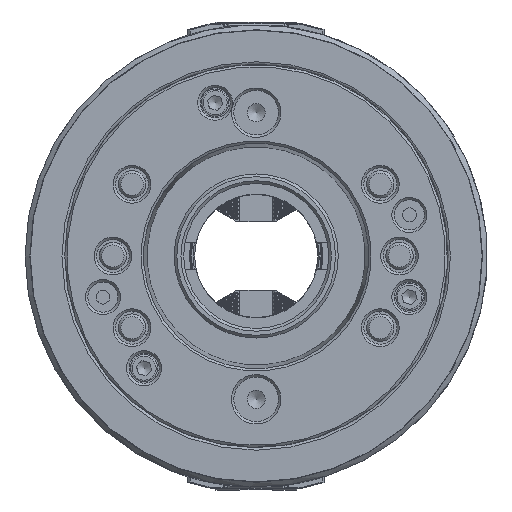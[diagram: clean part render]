
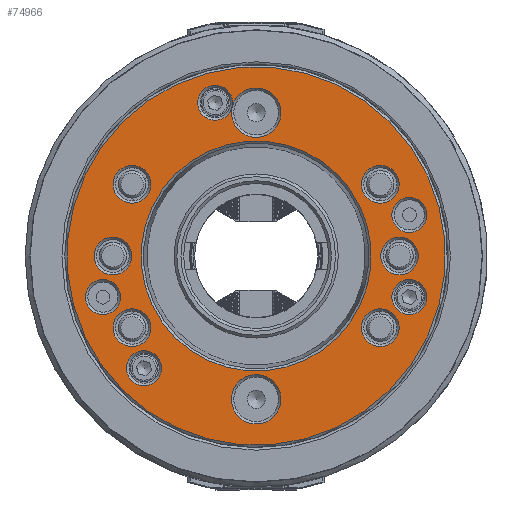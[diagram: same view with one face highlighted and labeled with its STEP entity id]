
A CAD part, front view. The second image highlights one B-rep face of the part: STEP entity #74966.
In plain terms, the highlighted planar face has unit normal (0, -1, 0).
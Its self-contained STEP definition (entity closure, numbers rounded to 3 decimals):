
#21244=PLANE('',#80234);
#21662=FACE_BOUND('',#29375,.T.);
#21663=FACE_BOUND('',#29376,.T.);
#21664=FACE_BOUND('',#29377,.T.);
#21665=FACE_BOUND('',#29378,.T.);
#21666=FACE_BOUND('',#29379,.T.);
#21667=FACE_BOUND('',#29380,.T.);
#21668=FACE_BOUND('',#29381,.T.);
#21669=FACE_BOUND('',#29382,.T.);
#21670=FACE_BOUND('',#29383,.T.);
#21671=FACE_BOUND('',#29384,.T.);
#21672=FACE_BOUND('',#29385,.T.);
#21673=FACE_BOUND('',#29386,.T.);
#21674=FACE_BOUND('',#29387,.T.);
#25310=FACE_OUTER_BOUND('',#29374,.T.);
#29374=EDGE_LOOP('',(#70151));
#29375=EDGE_LOOP('',(#70152,#70153));
#29376=EDGE_LOOP('',(#70154));
#29377=EDGE_LOOP('',(#70155));
#29378=EDGE_LOOP('',(#70156));
#29379=EDGE_LOOP('',(#70157));
#29380=EDGE_LOOP('',(#70158));
#29381=EDGE_LOOP('',(#70159));
#29382=EDGE_LOOP('',(#70160));
#29383=EDGE_LOOP('',(#70161));
#29384=EDGE_LOOP('',(#70162));
#29385=EDGE_LOOP('',(#70163));
#29386=EDGE_LOOP('',(#70164));
#29387=EDGE_LOOP('',(#70165));
#30190=CIRCLE('',#80163,6.4);
#30212=CIRCLE('',#80203,69.2);
#30215=CIRCLE('',#80207,42.067);
#30216=CIRCLE('',#80209,6.9);
#30217=CIRCLE('',#80211,6.9);
#30218=CIRCLE('',#80213,6.9);
#30219=CIRCLE('',#80215,6.9);
#30220=CIRCLE('',#80217,6.9);
#30221=CIRCLE('',#80219,6.9);
#30222=CIRCLE('',#80221,6.4);
#30223=CIRCLE('',#80223,6.4);
#30224=CIRCLE('',#80225,6.4);
#30225=CIRCLE('',#80227,6.4);
#30226=CIRCLE('',#80229,9.05);
#30228=CIRCLE('',#80233,9.05);
#37376=VERTEX_POINT('',#125314);
#37377=VERTEX_POINT('',#125315);
#37395=VERTEX_POINT('',#125373);
#37398=VERTEX_POINT('',#125380);
#37399=VERTEX_POINT('',#125383);
#37400=VERTEX_POINT('',#125386);
#37401=VERTEX_POINT('',#125389);
#37402=VERTEX_POINT('',#125392);
#37403=VERTEX_POINT('',#125395);
#37404=VERTEX_POINT('',#125398);
#37405=VERTEX_POINT('',#125401);
#37406=VERTEX_POINT('',#125404);
#37407=VERTEX_POINT('',#125407);
#37408=VERTEX_POINT('',#125410);
#37409=VERTEX_POINT('',#125413);
#48344=EDGE_CURVE('',#37376,#37377,#30190,.T.);
#48366=EDGE_CURVE('',#37395,#37395,#30212,.T.);
#48369=EDGE_CURVE('',#37398,#37398,#30215,.T.);
#48370=EDGE_CURVE('',#37399,#37399,#30216,.T.);
#48371=EDGE_CURVE('',#37400,#37400,#30217,.T.);
#48372=EDGE_CURVE('',#37401,#37401,#30218,.T.);
#48373=EDGE_CURVE('',#37402,#37402,#30219,.T.);
#48374=EDGE_CURVE('',#37403,#37403,#30220,.T.);
#48375=EDGE_CURVE('',#37404,#37404,#30221,.T.);
#48376=EDGE_CURVE('',#37405,#37405,#30222,.T.);
#48377=EDGE_CURVE('',#37406,#37406,#30223,.T.);
#48378=EDGE_CURVE('',#37407,#37407,#30224,.T.);
#48379=EDGE_CURVE('',#37408,#37408,#30225,.T.);
#48380=EDGE_CURVE('',#37409,#37409,#30226,.T.);
#48382=EDGE_CURVE('',#37377,#37376,#30228,.T.);
#70151=ORIENTED_EDGE('',*,*,#48366,.T.);
#70152=ORIENTED_EDGE('',*,*,#48382,.T.);
#70153=ORIENTED_EDGE('',*,*,#48344,.T.);
#70154=ORIENTED_EDGE('',*,*,#48380,.T.);
#70155=ORIENTED_EDGE('',*,*,#48379,.T.);
#70156=ORIENTED_EDGE('',*,*,#48378,.T.);
#70157=ORIENTED_EDGE('',*,*,#48377,.T.);
#70158=ORIENTED_EDGE('',*,*,#48376,.T.);
#70159=ORIENTED_EDGE('',*,*,#48375,.T.);
#70160=ORIENTED_EDGE('',*,*,#48374,.T.);
#70161=ORIENTED_EDGE('',*,*,#48373,.T.);
#70162=ORIENTED_EDGE('',*,*,#48372,.T.);
#70163=ORIENTED_EDGE('',*,*,#48371,.T.);
#70164=ORIENTED_EDGE('',*,*,#48370,.T.);
#70165=ORIENTED_EDGE('',*,*,#48369,.T.);
#74966=ADVANCED_FACE('',(#25310,#21662,#21663,#21664,#21665,#21666,#21667,
#21668,#21669,#21670,#21671,#21672,#21673,#21674),#21244,.T.);
#80163=AXIS2_PLACEMENT_3D('',#125316,#98510,#98511);
#80203=AXIS2_PLACEMENT_3D('',#125374,#98590,#98591);
#80207=AXIS2_PLACEMENT_3D('',#125381,#98598,#98599);
#80209=AXIS2_PLACEMENT_3D('',#125384,#98602,#98603);
#80211=AXIS2_PLACEMENT_3D('',#125387,#98606,#98607);
#80213=AXIS2_PLACEMENT_3D('',#125390,#98610,#98611);
#80215=AXIS2_PLACEMENT_3D('',#125393,#98614,#98615);
#80217=AXIS2_PLACEMENT_3D('',#125396,#98618,#98619);
#80219=AXIS2_PLACEMENT_3D('',#125399,#98622,#98623);
#80221=AXIS2_PLACEMENT_3D('',#125402,#98626,#98627);
#80223=AXIS2_PLACEMENT_3D('',#125405,#98630,#98631);
#80225=AXIS2_PLACEMENT_3D('',#125408,#98634,#98635);
#80227=AXIS2_PLACEMENT_3D('',#125411,#98638,#98639);
#80229=AXIS2_PLACEMENT_3D('',#125414,#98642,#98643);
#80233=AXIS2_PLACEMENT_3D('',#125419,#98650,#98651);
#80234=AXIS2_PLACEMENT_3D('',#125420,#98652,#98653);
#98510=DIRECTION('center_axis',(0.,1.,0.));
#98511=DIRECTION('ref_axis',(0.966,0.,-0.259));
#98590=DIRECTION('center_axis',(0.,-1.,0.));
#98591=DIRECTION('ref_axis',(-0.259,0.,0.966));
#98598=DIRECTION('center_axis',(0.,1.,0.));
#98599=DIRECTION('ref_axis',(-0.259,0.,0.966));
#98602=DIRECTION('center_axis',(0.,1.,0.));
#98603=DIRECTION('ref_axis',(-0.259,0.,0.966));
#98606=DIRECTION('center_axis',(0.,1.,0.));
#98607=DIRECTION('ref_axis',(-0.259,0.,0.966));
#98610=DIRECTION('center_axis',(0.,1.,0.));
#98611=DIRECTION('ref_axis',(-0.259,0.,0.966));
#98614=DIRECTION('center_axis',(0.,1.,0.));
#98615=DIRECTION('ref_axis',(0.259,0.,-0.966));
#98618=DIRECTION('center_axis',(0.,1.,0.));
#98619=DIRECTION('ref_axis',(0.259,0.,-0.966));
#98622=DIRECTION('center_axis',(0.,1.,0.));
#98623=DIRECTION('ref_axis',(0.259,0.,-0.966));
#98626=DIRECTION('center_axis',(0.,1.,0.));
#98627=DIRECTION('ref_axis',(-0.259,0.,0.966));
#98630=DIRECTION('center_axis',(0.,1.,0.));
#98631=DIRECTION('ref_axis',(-0.707,0.,-0.707));
#98634=DIRECTION('center_axis',(0.,1.,0.));
#98635=DIRECTION('ref_axis',(-0.259,0.,0.966));
#98638=DIRECTION('center_axis',(0.,1.,0.));
#98639=DIRECTION('ref_axis',(0.259,0.,-0.966));
#98642=DIRECTION('center_axis',(0.,1.,0.));
#98643=DIRECTION('ref_axis',(-0.259,0.,0.966));
#98650=DIRECTION('center_axis',(0.,1.,0.));
#98651=DIRECTION('ref_axis',(0.259,0.,-0.966));
#98652=DIRECTION('center_axis',(0.,-1.,0.));
#98653=DIRECTION('ref_axis',(-0.966,0.,-0.259));
#125314=CARTESIAN_POINT('',(-8.849,-9.983,54.295));
#125315=CARTESIAN_POINT('',(-8.739,-9.983,54.751));
#125316=CARTESIAN_POINT('Origin',(-15.012,-9.983,56.024));
#125373=CARTESIAN_POINT('',(17.91,-9.983,-66.842));
#125374=CARTESIAN_POINT('Origin',(0.,-9.983,
0.));
#125380=CARTESIAN_POINT('',(10.888,-9.983,-40.633));
#125381=CARTESIAN_POINT('Origin',(0.,-9.983,
0.));
#125383=CARTESIAN_POINT('',(47.166,-9.983,19.535));
#125384=CARTESIAN_POINT('Origin',(45.38,-9.983,26.2));
#125386=CARTESIAN_POINT('',(54.186,-9.983,-6.665));
#125387=CARTESIAN_POINT('Origin',(52.4,-9.983,0.));
#125389=CARTESIAN_POINT('',(47.166,-9.983,-32.865));
#125390=CARTESIAN_POINT('Origin',(45.38,-9.983,-26.2));
#125392=CARTESIAN_POINT('',(-47.166,-9.983,-19.535));
#125393=CARTESIAN_POINT('Origin',(-45.38,-9.983,-26.2));
#125395=CARTESIAN_POINT('',(-54.186,-9.983,6.665));
#125396=CARTESIAN_POINT('Origin',(-52.4,-9.983,0.));
#125398=CARTESIAN_POINT('',(-47.166,-9.983,32.865));
#125399=CARTESIAN_POINT('Origin',(-45.38,-9.983,26.2));
#125401=CARTESIAN_POINT('',(-39.356,-9.983,-47.194));
#125402=CARTESIAN_POINT('Origin',(-41.012,-9.983,-41.012));
#125404=CARTESIAN_POINT('',(60.549,-9.983,-10.486));
#125405=CARTESIAN_POINT('Origin',(56.024,-9.983,-15.012));
#125407=CARTESIAN_POINT('',(57.68,-9.983,8.83));
#125408=CARTESIAN_POINT('Origin',(56.024,-9.983,15.012));
#125410=CARTESIAN_POINT('',(-57.68,-9.983,-8.83));
#125411=CARTESIAN_POINT('Origin',(-56.024,-9.983,-15.012));
#125413=CARTESIAN_POINT('',(2.342,-9.983,-61.142));
#125414=CARTESIAN_POINT('Origin',(0.,-9.983,
-52.4));
#125419=CARTESIAN_POINT('Origin',(0.,-9.983,
52.4));
#125420=CARTESIAN_POINT('Origin',(18.117,-9.983,-67.615));
